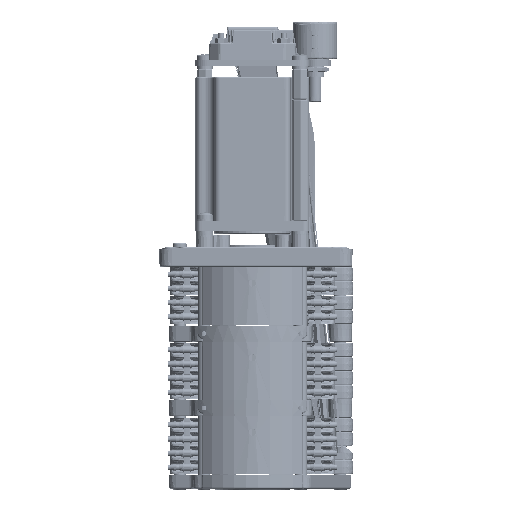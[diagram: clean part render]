
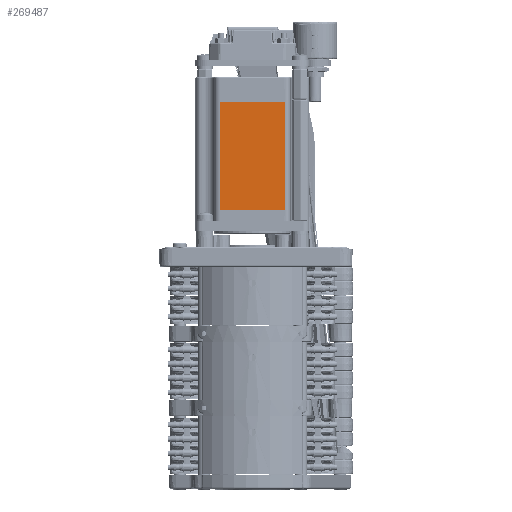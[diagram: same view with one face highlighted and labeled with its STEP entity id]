
A CAD part, front view. The second image highlights one B-rep face of the part: STEP entity #269487.
In plain terms, the highlighted planar face has unit normal (0, -1, 0) by its records, which use the part's own axes.
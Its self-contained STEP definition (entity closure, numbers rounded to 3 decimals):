
#3235 = ORIENTED_EDGE ( 'NONE', *, *, #233801, .T. ) ;
#8464 = CARTESIAN_POINT ( 'NONE',  ( 14.174, -29.2, 28. ) ) ;
#8542 = CARTESIAN_POINT ( 'NONE',  ( 3.55, -29.2, 82. ) ) ;
#10344 = DIRECTION ( 'NONE',  ( 0., 0., -1. ) ) ;
#15117 = CARTESIAN_POINT ( 'NONE',  ( -7.05, -29.2, 82. ) ) ;
#17728 = EDGE_CURVE ( 'NONE', #148271, #122074, #163432, .T. ) ;
#21146 = CARTESIAN_POINT ( 'NONE',  ( -17.666, -29.2, 28. ) ) ;
#24510 = FACE_OUTER_BOUND ( 'NONE', #99127, .T. ) ;
#26214 = DIRECTION ( 'NONE',  ( 0., 0., -1. ) ) ;
#29482 = ORIENTED_EDGE ( 'NONE', *, *, #97714, .T. ) ;
#37012 = VERTEX_POINT ( 'NONE', #182558 ) ;
#38612 = B_SPLINE_CURVE_WITH_KNOTS ( 'NONE', 3,
 ( #253027, #190045, #59968, #166306 ),
 .UNSPECIFIED., .F., .F.,
 ( 4, 4 ),
 ( 0., 1. ),
 .UNSPECIFIED. ) ;
#47516 = ORIENTED_EDGE ( 'NONE', *, *, #81001, .T. ) ;
#49844 = VECTOR ( 'NONE', #138969, 1000. ) ;
#50503 = CARTESIAN_POINT ( 'NONE',  ( -7.05, -29.2, 28. ) ) ;
#59968 = CARTESIAN_POINT ( 'NONE',  ( 14.166, -29.2, 28. ) ) ;
#65401 = LINE ( 'NONE', #86383, #257459 ) ;
#72860 = CARTESIAN_POINT ( 'NONE',  ( 14.15, -29.2, 82. ) ) ;
#75182 = B_SPLINE_CURVE_WITH_KNOTS ( 'NONE', 3,
 ( #222606, #15117, #8542, #72860 ),
 .UNSPECIFIED., .F., .F.,
 ( 4, 4 ),
 ( 0., 1. ),
 .UNSPECIFIED. ) ;
#81001 = EDGE_CURVE ( 'NONE', #148271, #134972, #65401, .T. ) ;
#81487 = LINE ( 'NONE', #245323, #49844 ) ;
#85534 = ORIENTED_EDGE ( 'NONE', *, *, #140378, .F. ) ;
#86383 = CARTESIAN_POINT ( 'NONE',  ( -17.674, -29.2, 5.605 ) ) ;
#94845 = CARTESIAN_POINT ( 'NONE',  ( 14.174, -29.2, 82. ) ) ;
#96103 = B_SPLINE_CURVE_WITH_KNOTS ( 'NONE', 3,
 ( #116219, #50503, #139943, #264500 ),
 .UNSPECIFIED., .F., .F.,
 ( 4, 4 ),
 ( 0., 1. ),
 .UNSPECIFIED. ) ;
#97156 = CARTESIAN_POINT ( 'NONE',  ( -17.65, -29.2, 28. ) ) ;
#97714 = EDGE_CURVE ( 'NONE', #37012, #254641, #38612, .T. ) ;
#99127 = EDGE_LOOP ( 'NONE', ( #242570, #47516, #3235, #103508, #29482, #121771, #239321, #85534 ) ) ;
#102349 = CARTESIAN_POINT ( 'NONE',  ( 14.15, -29.2, 82. ) ) ;
#103508 = ORIENTED_EDGE ( 'NONE', *, *, #255216, .T. ) ;
#103972 = CARTESIAN_POINT ( 'NONE',  ( -17.674, -29.2, 82. ) ) ;
#116219 = CARTESIAN_POINT ( 'NONE',  ( -17.65, -29.2, 28. ) ) ;
#120903 = CARTESIAN_POINT ( 'NONE',  ( -17.65, -29.2, 82. ) ) ;
#121771 = ORIENTED_EDGE ( 'NONE', *, *, #138012, .T. ) ;
#122074 = VERTEX_POINT ( 'NONE', #120903 ) ;
#129359 = B_SPLINE_CURVE_WITH_KNOTS ( 'NONE', 3,
 ( #256108, #21146, #148460, #173534 ),
 .UNSPECIFIED., .F., .F.,
 ( 4, 4 ),
 ( 0., 1. ),
 .UNSPECIFIED. ) ;
#134972 = VERTEX_POINT ( 'NONE', #156081 ) ;
#136339 = CARTESIAN_POINT ( 'NONE',  ( -21.45, -29.2, 82. ) ) ;
#136932 = CARTESIAN_POINT ( 'NONE',  ( 14.174, -29.2, 82. ) ) ;
#138012 = EDGE_CURVE ( 'NONE', #254641, #243516, #81487, .T. ) ;
#138969 = DIRECTION ( 'NONE',  ( 0., 0., 1. ) ) ;
#139943 = CARTESIAN_POINT ( 'NONE',  ( 3.55, -29.2, 28. ) ) ;
#140378 = EDGE_CURVE ( 'NONE', #122074, #262043, #75182, .T. ) ;
#147376 = CARTESIAN_POINT ( 'NONE',  ( -17.666, -29.2, 82. ) ) ;
#148271 = VERTEX_POINT ( 'NONE', #256504 ) ;
#148460 = CARTESIAN_POINT ( 'NONE',  ( -17.658, -29.2, 28. ) ) ;
#156081 = CARTESIAN_POINT ( 'NONE',  ( -17.674, -29.2, 28. ) ) ;
#163432 = B_SPLINE_CURVE_WITH_KNOTS ( 'NONE', 3,
 ( #103972, #147376, #187911, #276003 ),
 .UNSPECIFIED., .F., .F.,
 ( 4, 4 ),
 ( 0., 1. ),
 .UNSPECIFIED. ) ;
#166306 = CARTESIAN_POINT ( 'NONE',  ( 14.174, -29.2, 28. ) ) ;
#173534 = CARTESIAN_POINT ( 'NONE',  ( -17.65, -29.2, 28. ) ) ;
#176397 = AXIS2_PLACEMENT_3D ( 'NONE', #136339, #242635, #10344 ) ;
#182558 = CARTESIAN_POINT ( 'NONE',  ( 14.15, -29.2, 28. ) ) ;
#187911 = CARTESIAN_POINT ( 'NONE',  ( -17.658, -29.2, 82. ) ) ;
#190045 = CARTESIAN_POINT ( 'NONE',  ( 14.158, -29.2, 28. ) ) ;
#205284 = CARTESIAN_POINT ( 'NONE',  ( 14.166, -29.2, 82. ) ) ;
#222606 = CARTESIAN_POINT ( 'NONE',  ( -17.65, -29.2, 82. ) ) ;
#223357 = B_SPLINE_CURVE_WITH_KNOTS ( 'NONE', 3,
 ( #223556, #266855, #205284, #94845 ),
 .UNSPECIFIED., .F., .F.,
 ( 4, 4 ),
 ( 0., 1. ),
 .UNSPECIFIED. ) ;
#223556 = CARTESIAN_POINT ( 'NONE',  ( 14.15, -29.2, 82. ) ) ;
#225792 = PLANE ( 'NONE',  #176397 ) ;
#233801 = EDGE_CURVE ( 'NONE', #134972, #248002, #129359, .T. ) ;
#239321 = ORIENTED_EDGE ( 'NONE', *, *, #262643, .F. ) ;
#242570 = ORIENTED_EDGE ( 'NONE', *, *, #17728, .F. ) ;
#242635 = DIRECTION ( 'NONE',  ( 0., 1., 0. ) ) ;
#243516 = VERTEX_POINT ( 'NONE', #136932 ) ;
#245323 = CARTESIAN_POINT ( 'NONE',  ( 14.174, -29.2, 5.605 ) ) ;
#248002 = VERTEX_POINT ( 'NONE', #97156 ) ;
#253027 = CARTESIAN_POINT ( 'NONE',  ( 14.15, -29.2, 28. ) ) ;
#254641 = VERTEX_POINT ( 'NONE', #8464 ) ;
#255216 = EDGE_CURVE ( 'NONE', #248002, #37012, #96103, .T. ) ;
#256108 = CARTESIAN_POINT ( 'NONE',  ( -17.674, -29.2, 28. ) ) ;
#256504 = CARTESIAN_POINT ( 'NONE',  ( -17.674, -29.2, 82. ) ) ;
#257459 = VECTOR ( 'NONE', #26214, 1000. ) ;
#262043 = VERTEX_POINT ( 'NONE', #102349 ) ;
#262643 = EDGE_CURVE ( 'NONE', #262043, #243516, #223357, .T. ) ;
#264500 = CARTESIAN_POINT ( 'NONE',  ( 14.15, -29.2, 28. ) ) ;
#266855 = CARTESIAN_POINT ( 'NONE',  ( 14.158, -29.2, 82. ) ) ;
#269487 = ADVANCED_FACE ( 'NONE', ( #24510 ), #225792, .F. ) ;
#276003 = CARTESIAN_POINT ( 'NONE',  ( -17.65, -29.2, 82. ) ) ;
